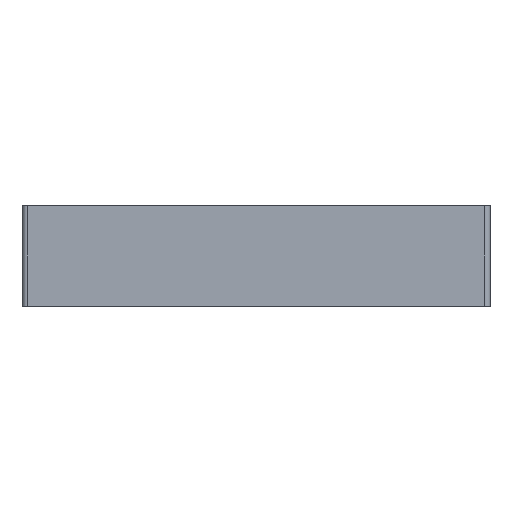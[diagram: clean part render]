
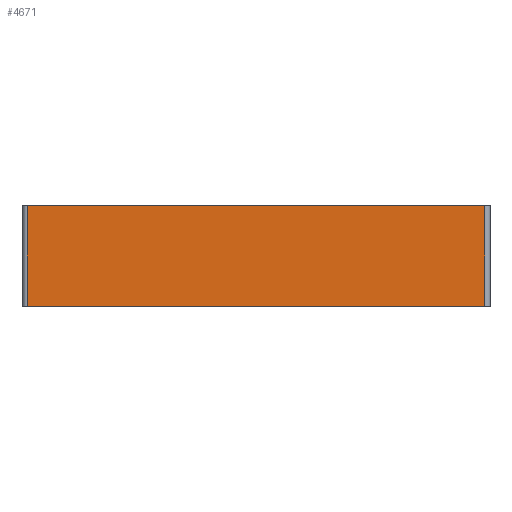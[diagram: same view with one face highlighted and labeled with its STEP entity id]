
A CAD part, left-side view. The second image highlights one B-rep face of the part: STEP entity #4671.
In plain terms, the highlighted planar face has unit normal (-1, 0, 0).
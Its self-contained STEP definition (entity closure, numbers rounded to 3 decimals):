
#44 = PLANE('',#45);
#45 = AXIS2_PLACEMENT_3D('',#46,#47,#48);
#46 = CARTESIAN_POINT('',(73.025,90.,0.));
#47 = DIRECTION('',(0.,0.,1.));
#48 = DIRECTION('',(1.,0.,-0.));
#72 = CYLINDRICAL_SURFACE('',#73,2.);
#73 = AXIS2_PLACEMENT_3D('',#74,#75,#76);
#74 = CARTESIAN_POINT('',(2.,2.,0.));
#75 = DIRECTION('',(-0.,-0.,-1.));
#76 = DIRECTION('',(-1.,0.,0.));
#100 = PLANE('',#101);
#101 = AXIS2_PLACEMENT_3D('',#102,#103,#104);
#102 = CARTESIAN_POINT('',(73.025,90.,38.5));
#103 = DIRECTION('',(0.,0.,1.));
#104 = DIRECTION('',(1.,0.,-0.));
#308 = VERTEX_POINT('',#309);
#309 = CARTESIAN_POINT('',(0.,178.,0.));
#324 = CYLINDRICAL_SURFACE('',#325,2.);
#325 = AXIS2_PLACEMENT_3D('',#326,#327,#328);
#326 = CARTESIAN_POINT('',(2.,178.,0.));
#327 = DIRECTION('',(-0.,-0.,-1.));
#328 = DIRECTION('',(0.,1.,-0.));
#336 = EDGE_CURVE('',#308,#337,#339,.T.);
#337 = VERTEX_POINT('',#338);
#338 = CARTESIAN_POINT('',(0.,2.,0.));
#339 = SURFACE_CURVE('',#340,(#344,#351),.PCURVE_S1.);
#340 = LINE('',#341,#342);
#341 = CARTESIAN_POINT('',(0.,178.,0.));
#342 = VECTOR('',#343,1.);
#343 = DIRECTION('',(0.,-1.,0.));
#344 = PCURVE('',#44,#345);
#345 = DEFINITIONAL_REPRESENTATION('',(#346),#350);
#346 = LINE('',#347,#348);
#347 = CARTESIAN_POINT('',(-73.025,88.));
#348 = VECTOR('',#349,1.);
#349 = DIRECTION('',(0.,-1.));
#350 = ( GEOMETRIC_REPRESENTATION_CONTEXT(2) 
PARAMETRIC_REPRESENTATION_CONTEXT() REPRESENTATION_CONTEXT('2D SPACE',''
  ) );
#351 = PCURVE('',#352,#357);
#352 = PLANE('',#353);
#353 = AXIS2_PLACEMENT_3D('',#354,#355,#356);
#354 = CARTESIAN_POINT('',(0.,178.,0.));
#355 = DIRECTION('',(1.,0.,0.));
#356 = DIRECTION('',(0.,-1.,0.));
#357 = DEFINITIONAL_REPRESENTATION('',(#358),#362);
#358 = LINE('',#359,#360);
#359 = CARTESIAN_POINT('',(0.,0.));
#360 = VECTOR('',#361,1.);
#361 = DIRECTION('',(1.,0.));
#362 = ( GEOMETRIC_REPRESENTATION_CONTEXT(2) 
PARAMETRIC_REPRESENTATION_CONTEXT() REPRESENTATION_CONTEXT('2D SPACE',''
  ) );
#638 = VERTEX_POINT('',#639);
#639 = CARTESIAN_POINT('',(0.,2.,38.5));
#661 = EDGE_CURVE('',#337,#638,#662,.T.);
#662 = SURFACE_CURVE('',#663,(#667,#674),.PCURVE_S1.);
#663 = LINE('',#664,#665);
#664 = CARTESIAN_POINT('',(0.,2.,0.));
#665 = VECTOR('',#666,1.);
#666 = DIRECTION('',(0.,0.,1.));
#667 = PCURVE('',#72,#668);
#668 = DEFINITIONAL_REPRESENTATION('',(#669),#673);
#669 = LINE('',#670,#671);
#670 = CARTESIAN_POINT('',(6.283,0.));
#671 = VECTOR('',#672,1.);
#672 = DIRECTION('',(-0.,-1.));
#673 = ( GEOMETRIC_REPRESENTATION_CONTEXT(2) 
PARAMETRIC_REPRESENTATION_CONTEXT() REPRESENTATION_CONTEXT('2D SPACE',''
  ) );
#674 = PCURVE('',#352,#675);
#675 = DEFINITIONAL_REPRESENTATION('',(#676),#680);
#676 = LINE('',#677,#678);
#677 = CARTESIAN_POINT('',(176.,0.));
#678 = VECTOR('',#679,1.);
#679 = DIRECTION('',(0.,-1.));
#680 = ( GEOMETRIC_REPRESENTATION_CONTEXT(2) 
PARAMETRIC_REPRESENTATION_CONTEXT() REPRESENTATION_CONTEXT('2D SPACE',''
  ) );
#894 = VERTEX_POINT('',#895);
#895 = CARTESIAN_POINT('',(0.,178.,38.5));
#917 = EDGE_CURVE('',#894,#638,#918,.T.);
#918 = SURFACE_CURVE('',#919,(#923,#930),.PCURVE_S1.);
#919 = LINE('',#920,#921);
#920 = CARTESIAN_POINT('',(0.,178.,38.5));
#921 = VECTOR('',#922,1.);
#922 = DIRECTION('',(0.,-1.,0.));
#923 = PCURVE('',#100,#924);
#924 = DEFINITIONAL_REPRESENTATION('',(#925),#929);
#925 = LINE('',#926,#927);
#926 = CARTESIAN_POINT('',(-73.025,88.));
#927 = VECTOR('',#928,1.);
#928 = DIRECTION('',(0.,-1.));
#929 = ( GEOMETRIC_REPRESENTATION_CONTEXT(2) 
PARAMETRIC_REPRESENTATION_CONTEXT() REPRESENTATION_CONTEXT('2D SPACE',''
  ) );
#930 = PCURVE('',#352,#931);
#931 = DEFINITIONAL_REPRESENTATION('',(#932),#936);
#932 = LINE('',#933,#934);
#933 = CARTESIAN_POINT('',(0.,-38.5));
#934 = VECTOR('',#935,1.);
#935 = DIRECTION('',(1.,0.));
#936 = ( GEOMETRIC_REPRESENTATION_CONTEXT(2) 
PARAMETRIC_REPRESENTATION_CONTEXT() REPRESENTATION_CONTEXT('2D SPACE',''
  ) );
#4649 = EDGE_CURVE('',#308,#894,#4650,.T.);
#4650 = SURFACE_CURVE('',#4651,(#4655,#4662),.PCURVE_S1.);
#4651 = LINE('',#4652,#4653);
#4652 = CARTESIAN_POINT('',(0.,178.,0.));
#4653 = VECTOR('',#4654,1.);
#4654 = DIRECTION('',(0.,0.,1.));
#4655 = PCURVE('',#324,#4656);
#4656 = DEFINITIONAL_REPRESENTATION('',(#4657),#4661);
#4657 = LINE('',#4658,#4659);
#4658 = CARTESIAN_POINT('',(4.712,0.));
#4659 = VECTOR('',#4660,1.);
#4660 = DIRECTION('',(-0.,-1.));
#4661 = ( GEOMETRIC_REPRESENTATION_CONTEXT(2) 
PARAMETRIC_REPRESENTATION_CONTEXT() REPRESENTATION_CONTEXT('2D SPACE',''
  ) );
#4662 = PCURVE('',#352,#4663);
#4663 = DEFINITIONAL_REPRESENTATION('',(#4664),#4668);
#4664 = LINE('',#4665,#4666);
#4665 = CARTESIAN_POINT('',(0.,0.));
#4666 = VECTOR('',#4667,1.);
#4667 = DIRECTION('',(0.,-1.));
#4668 = ( GEOMETRIC_REPRESENTATION_CONTEXT(2) 
PARAMETRIC_REPRESENTATION_CONTEXT() REPRESENTATION_CONTEXT('2D SPACE',''
  ) );
#4671 = ADVANCED_FACE('',(#4672),#352,.F.);
#4672 = FACE_BOUND('',#4673,.F.);
#4673 = EDGE_LOOP('',(#4674,#4675,#4676,#4677));
#4674 = ORIENTED_EDGE('',*,*,#4649,.T.);
#4675 = ORIENTED_EDGE('',*,*,#917,.T.);
#4676 = ORIENTED_EDGE('',*,*,#661,.F.);
#4677 = ORIENTED_EDGE('',*,*,#336,.F.);
